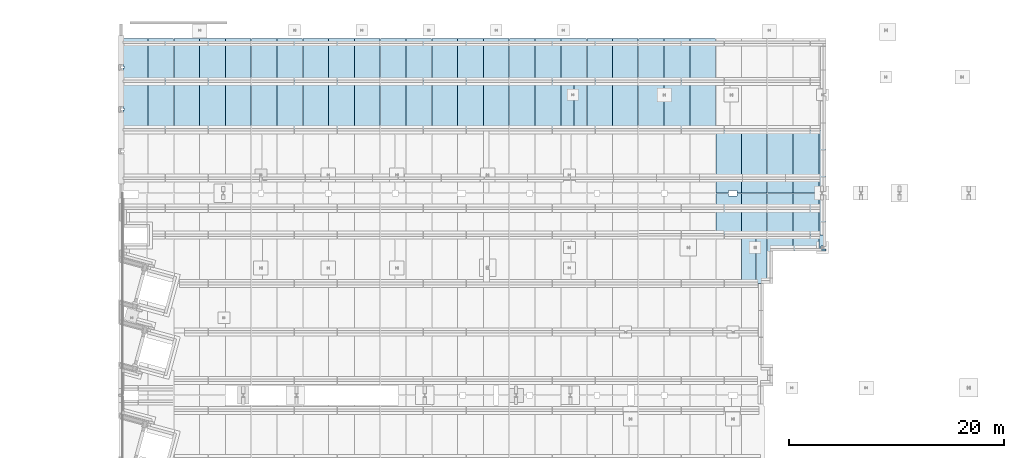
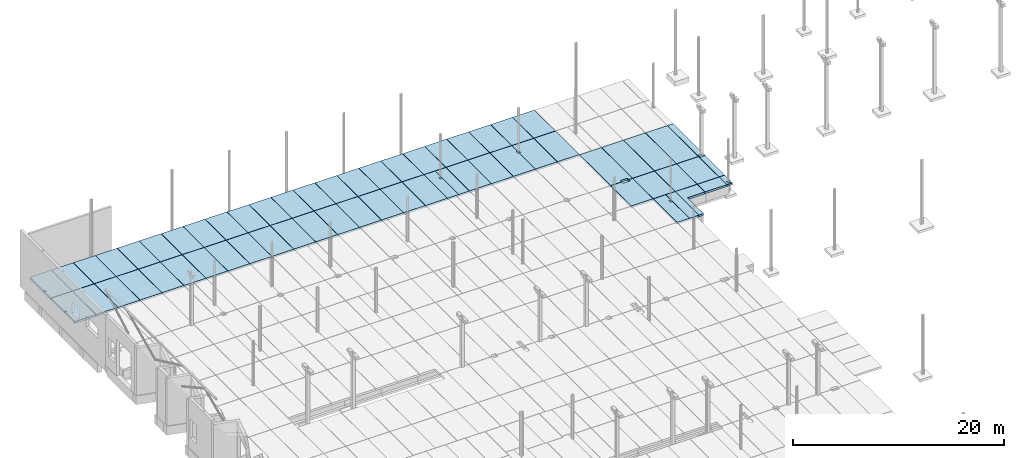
# One storey, part 52 of 59: 62 slabs.
"""IFC2X3 building model written with IfcOpenShell, lengths in metres."""

from ifc_helpers import new_model, entity, si_unit, converted_unit, derived_unit, frame, frame_2d, origin, origin_with_axes, place, context, subcontext, project, spatial, polyline, rectangle, outline, extrude, material, element, save


model = new_model("IFC2X3")

# Units and contexts
model_context = context("Model", 3, precision=1e-05, world=origin())
body_context = subcontext(model_context, "Body", "Model", "MODEL_VIEW")
ifc_project = project(units=[si_unit("LENGTHUNIT", "METRE"), si_unit("AREAUNIT", "SQUARE_METRE"), si_unit("VOLUMEUNIT", "CUBIC_METRE"), si_unit("MASSUNIT", "GRAM", prefix="KILO"), converted_unit("PLANEANGLEUNIT", "DEGREE", entity("IfcPlaneAngleMeasure", 0.0174532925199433), si_unit("PLANEANGLEUNIT", "RADIAN"), dimensions=[0, 0, 0, 0, 0, 0, 0]), derived_unit("THERMALTRANSMITTANCEUNIT", [(si_unit("POWERUNIT", "WATT"), 1), (si_unit("THERMODYNAMICTEMPERATUREUNIT", "KELVIN"), -1), (si_unit("LENGTHUNIT", "METRE"), -2)]), derived_unit("VOLUMETRICFLOWRATEUNIT", [(si_unit("LENGTHUNIT", "METRE"), 3), (converted_unit("TIMEUNIT", "hour", entity("IfcTimeMeasure", 3600.0), si_unit("TIMEUNIT", "SECOND"), dimensions=[0, 0, 1, 0, 0, 0, 0]), -1), (si_unit("LENGTHUNIT", "METRE"), -1)])], contexts=[model_context])

# Site, building, storey
site_placement = place(None, origin())
site = spatial("IfcSite", under=ifc_project, at=site_placement, Name="TWP_Speiseverteilzentrum SBW VZ II", CompositionType="ELEMENT")
building_placement = place(site_placement, origin())
building = spatial("IfcBuilding", under=site, at=building_placement, Name="Speiseverteilzentrum SBW VZ II", CompositionType="ELEMENT")
storey_placement = place(building_placement, frame((0.0, 0.0, 1.7307)))
storey = spatial("IfcBuildingStorey", under=building, at=storey_placement, Name="EG_Produktion_FFB", CompositionType="ELEMENT", Elevation=1.7307)

# Slabs
ifc_material_1 = material(Name="Stahlbetonfertigteil")
slab_1_placement = place(storey_placement, frame((74.3999999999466, 65.0249999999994, -0.47)))
element("IfcSlab", 1, at=slab_1_placement, inside=storey, material=ifc_material_1, Name="Stahlbetonfertigteilplatte", PredefinedType="BASESLAB", context=body_context, shape_type="SweptSolid", body=[
    extrude(outline(polyline([(0.195000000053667, 0.440000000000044), (0.625000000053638, 0.440000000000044), (0.625000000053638, 1.46500000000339), (0.0, 1.46500000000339), (0.0, 0.0), (0.625000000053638, 0.0), (0.625000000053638, 0.190000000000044), (0.195000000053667, 0.190000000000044), (0.195000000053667, 0.440000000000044)])), origin_with_axes(), (0.0, 0.0, 1.0), 0.22),
])
ifc_material_2 = material(Name="Stahlbetonfertigteil")
slab_2_placement = place(storey_placement, frame((71.9999999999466, 65.0249999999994, -0.47)))
element("IfcSlab", 2, at=slab_2_placement, inside=storey, material=ifc_material_2, Name="Stahlbetonfertigteilplatte", PredefinedType="BASESLAB", context=body_context, shape_type="SweptSolid", body=[
    extrude(rectangle(XDim=1.46500000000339, YDim=2.38, at=frame_2d((1.19, -0.732500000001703), x_axis=(0.0, -1.0))), frame((0.0, 1.46500000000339, 0.0), z_axis=(0.0, 0.0, 1.0), x_axis=(1.0, 0.0, 0.0)), (0.0, 0.0, 1.0), 0.22),
])
ifc_material_3 = material(Name="Stahlbetonfertigteil")
slab_3_placement = place(storey_placement, frame((69.5999999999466, 62.0100000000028, -0.47)))
element("IfcSlab", 3, at=slab_3_placement, inside=storey, material=ifc_material_3, Name="Stahlbetonfertigteilplatte", PredefinedType="BASESLAB", context=body_context, shape_type="SweptSolid", body=[
    extrude(outline(polyline([(2.38, 3.01499999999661), (2.38, 4.47999999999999), (0.0, 4.47999999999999), (0.0, 0.0), (0.500000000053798, 0.0), (0.500000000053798, 3.01499999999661), (2.38, 3.01499999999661)])), origin_with_axes(), (0.0, 0.0, 1.0), 0.22),
])
ifc_material_4 = material(Name="Stahlbetonfertigteil")
slab_4_placement = place(storey_placement, frame((50.3999999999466, 76.3101031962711, -0.47)))
element("IfcSlab", 4, at=slab_4_placement, inside=storey, material=ifc_material_4, Name="Stahlbetonfertigteilplatte", PredefinedType="BASESLAB", context=body_context, shape_type="SweptSolid", body=[
    extrude(outline(polyline([(0.970000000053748, 3.36289945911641), (1.21000000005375, 3.36289945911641), (1.21000000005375, 4.47999999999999), (0.0, 4.47999999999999), (0.0, 0.0), (1.21000000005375, 0.0), (1.21000000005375, 3.11289945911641), (0.970000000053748, 3.11289945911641), (0.970000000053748, 3.36289945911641)])), origin_with_axes(), (0.0, 0.0, 1.0), 0.22),
])
ifc_material_5 = material(Name="Stahlbetonfertigteil")
slab_5_placement = place(storey_placement, frame((51.6300000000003, 76.3101031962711, -0.47)))
element("IfcSlab", 5, at=slab_5_placement, inside=storey, material=ifc_material_5, Name="Stahlbetonfertigteilplatte", PredefinedType="BASESLAB", context=body_context, shape_type="SweptSolid", body=[
    extrude(rectangle(XDim=4.47999999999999, YDim=1.14999999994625, at=frame_2d((0.574999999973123, -2.23999999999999), x_axis=(0.0, -1.0))), frame((0.0, 4.47999999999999, 0.0), z_axis=(0.0, 0.0, 1.0), x_axis=(1.0, 0.0, 0.0)), (0.0, 0.0, 1.0), 0.22),
])
ifc_material_6 = material(Name="Stahlbetonfertigteil")
slab_6_placement = place(storey_placement, frame((57.5999999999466, 76.3101031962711, -0.47)))
element("IfcSlab", 6, at=slab_6_placement, inside=storey, material=ifc_material_6, Name="Stahlbetonfertigteilplatte", PredefinedType="BASESLAB", context=body_context, shape_type="SweptSolid", body=[
    extrude(outline(polyline([(2.25000000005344, 3.38289945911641), (2.38, 3.38289945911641), (2.38, 4.47999999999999), (0.0, 4.47999999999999), (0.0, 0.0), (2.38, 0.0), (2.38, 3.09289945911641), (2.25000000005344, 3.09289945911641), (2.25000000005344, 3.38289945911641)])), origin_with_axes(), (0.0, 0.0, 1.0), 0.22),
])
ifc_material_7 = material(Name="Stahlbetonfertigteil")
slab_7_placement = place(storey_placement, frame((59.9999999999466, 76.3101031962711, -0.47)))
element("IfcSlab", 7, at=slab_7_placement, inside=storey, material=ifc_material_7, Name="Stahlbetonfertigteilplatte", PredefinedType="BASESLAB", context=body_context, shape_type="SweptSolid", body=[
    extrude(outline(polyline([(0.0, 3.38289945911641), (0.150000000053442, 3.38289945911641), (0.150000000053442, 3.09289945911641), (0.0, 3.09289945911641), (0.0, 0.0), (2.38, 0.0), (2.38, 4.47999999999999), (0.0, 4.47999999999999), (0.0, 3.38289945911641)])), origin_with_axes(), (0.0, 0.0, 1.0), 0.22),
])
ifc_material_8 = material(Name="Stahlbetonfertigteil")
slab_8_placement = place(storey_placement, frame((11.9999999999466, 76.3101031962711, -0.47)))
element("IfcSlab", 8, at=slab_8_placement, inside=storey, material=ifc_material_8, Name="Stahlbetonfertigteilplatte", PredefinedType="BASESLAB", context=body_context, shape_type="SweptSolid", body=[
    extrude(rectangle(XDim=4.47999999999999, YDim=2.38, at=frame_2d((1.19, -2.23999999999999), x_axis=(0.0, -1.0))), frame((0.0, 4.47999999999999, 0.0), z_axis=(0.0, 0.0, 1.0), x_axis=(1.0, 0.0, 0.0)), (0.0, 0.0, 1.0), 0.22),
])
ifc_material_9 = material(Name="Stahlbetonfertigteil")
slab_9_placement = place(storey_placement, frame((14.3999999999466, 76.3101031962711, -0.47)))
element("IfcSlab", 9, at=slab_9_placement, inside=storey, material=ifc_material_9, Name="Stahlbetonfertigteilplatte", PredefinedType="BASESLAB", context=body_context, shape_type="SweptSolid", body=[
    extrude(rectangle(XDim=4.47999999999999, YDim=2.38, at=frame_2d((1.19, -2.23999999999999), x_axis=(0.0, -1.0))), frame((0.0, 4.47999999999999, 0.0), z_axis=(0.0, 0.0, 1.0), x_axis=(1.0, 0.0, 0.0)), (0.0, 0.0, 1.0), 0.22),
])
ifc_material_10 = material(Name="Stahlbetonfertigteil")
slab_10_placement = place(storey_placement, frame((16.7999999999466, 76.3101031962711, -0.47)))
element("IfcSlab", 10, at=slab_10_placement, inside=storey, material=ifc_material_10, Name="Stahlbetonfertigteilplatte", PredefinedType="BASESLAB", context=body_context, shape_type="SweptSolid", body=[
    extrude(rectangle(XDim=4.47999999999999, YDim=2.38, at=frame_2d((1.19, -2.23999999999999), x_axis=(0.0, -1.0))), frame((0.0, 4.47999999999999, 0.0), z_axis=(0.0, 0.0, 1.0), x_axis=(1.0, 0.0, 0.0)), (0.0, 0.0, 1.0), 0.22),
])
ifc_material_11 = material(Name="Stahlbetonfertigteil")
slab_11_placement = place(storey_placement, frame((19.1999999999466, 76.3101031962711, -0.47)))
element("IfcSlab", 11, at=slab_11_placement, inside=storey, material=ifc_material_11, Name="Stahlbetonfertigteilplatte", PredefinedType="BASESLAB", context=body_context, shape_type="SweptSolid", body=[
    extrude(rectangle(XDim=4.47999999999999, YDim=2.38, at=frame_2d((1.19, -2.23999999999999), x_axis=(0.0, -1.0))), frame((0.0, 4.47999999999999, 0.0), z_axis=(0.0, 0.0, 1.0), x_axis=(1.0, 0.0, 0.0)), (0.0, 0.0, 1.0), 0.22),
])
ifc_material_12 = material(Name="Stahlbetonfertigteil")
slab_12_placement = place(storey_placement, frame((21.5999999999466, 76.3101031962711, -0.47)))
element("IfcSlab", 12, at=slab_12_placement, inside=storey, material=ifc_material_12, Name="Stahlbetonfertigteilplatte", PredefinedType="BASESLAB", context=body_context, shape_type="SweptSolid", body=[
    extrude(rectangle(XDim=4.47999999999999, YDim=2.38, at=frame_2d((1.19, -2.23999999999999), x_axis=(0.0, -1.0))), frame((0.0, 4.47999999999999, 0.0), z_axis=(0.0, 0.0, 1.0), x_axis=(1.0, 0.0, 0.0)), (0.0, 0.0, 1.0), 0.22),
])
ifc_material_13 = material(Name="Stahlbetonfertigteil")
slab_13_placement = place(storey_placement, frame((23.9999999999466, 76.3101031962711, -0.47)))
element("IfcSlab", 13, at=slab_13_placement, inside=storey, material=ifc_material_13, Name="Stahlbetonfertigteilplatte", PredefinedType="BASESLAB", context=body_context, shape_type="SweptSolid", body=[
    extrude(rectangle(XDim=4.47999999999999, YDim=2.38, at=frame_2d((1.19, -2.23999999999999), x_axis=(0.0, -1.0))), frame((0.0, 4.47999999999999, 0.0), z_axis=(0.0, 0.0, 1.0), x_axis=(1.0, 0.0, 0.0)), (0.0, 0.0, 1.0), 0.22),
])
ifc_material_14 = material(Name="Stahlbetonfertigteil")
slab_14_placement = place(storey_placement, frame((26.3999999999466, 76.3101031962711, -0.47)))
element("IfcSlab", 14, at=slab_14_placement, inside=storey, material=ifc_material_14, Name="Stahlbetonfertigteilplatte", PredefinedType="BASESLAB", context=body_context, shape_type="SweptSolid", body=[
    extrude(rectangle(XDim=4.47999999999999, YDim=2.38, at=frame_2d((1.19, -2.23999999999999), x_axis=(0.0, -1.0))), frame((0.0, 4.47999999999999, 0.0), z_axis=(0.0, 0.0, 1.0), x_axis=(1.0, 0.0, 0.0)), (0.0, 0.0, 1.0), 0.22),
])
ifc_material_15 = material(Name="Stahlbetonfertigteil")
slab_15_placement = place(storey_placement, frame((28.7999999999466, 76.3101031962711, -0.47)))
element("IfcSlab", 15, at=slab_15_placement, inside=storey, material=ifc_material_15, Name="Stahlbetonfertigteilplatte", PredefinedType="BASESLAB", context=body_context, shape_type="SweptSolid", body=[
    extrude(rectangle(XDim=4.47999999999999, YDim=2.38, at=frame_2d((1.19, -2.23999999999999), x_axis=(0.0, -1.0))), frame((0.0, 4.47999999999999, 0.0), z_axis=(0.0, 0.0, 1.0), x_axis=(1.0, 0.0, 0.0)), (0.0, 0.0, 1.0), 0.22),
])
ifc_material_16 = material(Name="Stahlbetonfertigteil")
slab_16_placement = place(storey_placement, frame((31.1999999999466, 76.3101031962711, -0.47)))
element("IfcSlab", 16, at=slab_16_placement, inside=storey, material=ifc_material_16, Name="Stahlbetonfertigteilplatte", PredefinedType="BASESLAB", context=body_context, shape_type="SweptSolid", body=[
    extrude(rectangle(XDim=4.47999999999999, YDim=2.38, at=frame_2d((1.19, -2.23999999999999), x_axis=(0.0, -1.0))), frame((0.0, 4.47999999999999, 0.0), z_axis=(0.0, 0.0, 1.0), x_axis=(1.0, 0.0, 0.0)), (0.0, 0.0, 1.0), 0.22),
])
ifc_material_17 = material(Name="Stahlbetonfertigteil")
slab_17_placement = place(storey_placement, frame((33.5999999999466, 76.3101031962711, -0.47)))
element("IfcSlab", 17, at=slab_17_placement, inside=storey, material=ifc_material_17, Name="Stahlbetonfertigteilplatte", PredefinedType="BASESLAB", context=body_context, shape_type="SweptSolid", body=[
    extrude(rectangle(XDim=4.47999999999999, YDim=2.38, at=frame_2d((1.19, -2.23999999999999), x_axis=(0.0, -1.0))), frame((0.0, 4.47999999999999, 0.0), z_axis=(0.0, 0.0, 1.0), x_axis=(1.0, 0.0, 0.0)), (0.0, 0.0, 1.0), 0.22),
])
ifc_material_18 = material(Name="Stahlbetonfertigteil")
slab_18_placement = place(storey_placement, frame((35.9999999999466, 76.3101031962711, -0.47)))
element("IfcSlab", 18, at=slab_18_placement, inside=storey, material=ifc_material_18, Name="Stahlbetonfertigteilplatte", PredefinedType="BASESLAB", context=body_context, shape_type="SweptSolid", body=[
    extrude(rectangle(XDim=4.47999999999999, YDim=2.38, at=frame_2d((1.19, -2.23999999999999), x_axis=(0.0, -1.0))), frame((0.0, 4.47999999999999, 0.0), z_axis=(0.0, 0.0, 1.0), x_axis=(1.0, 0.0, 0.0)), (0.0, 0.0, 1.0), 0.22),
])
ifc_material_19 = material(Name="Stahlbetonfertigteil")
slab_19_placement = place(storey_placement, frame((38.3999999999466, 76.3101031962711, -0.47)))
element("IfcSlab", 19, at=slab_19_placement, inside=storey, material=ifc_material_19, Name="Stahlbetonfertigteilplatte", PredefinedType="BASESLAB", context=body_context, shape_type="SweptSolid", body=[
    extrude(rectangle(XDim=4.47999999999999, YDim=2.38, at=frame_2d((1.19, -2.23999999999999), x_axis=(0.0, -1.0))), frame((0.0, 4.47999999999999, 0.0), z_axis=(0.0, 0.0, 1.0), x_axis=(1.0, 0.0, 0.0)), (0.0, 0.0, 1.0), 0.22),
])
ifc_material_20 = material(Name="Stahlbetonfertigteil")
slab_20_placement = place(storey_placement, frame((40.7999999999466, 76.3101031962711, -0.47)))
element("IfcSlab", 20, at=slab_20_placement, inside=storey, material=ifc_material_20, Name="Stahlbetonfertigteilplatte", PredefinedType="BASESLAB", context=body_context, shape_type="SweptSolid", body=[
    extrude(rectangle(XDim=4.47999999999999, YDim=2.38, at=frame_2d((1.19, -2.23999999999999), x_axis=(0.0, -1.0))), frame((0.0, 4.47999999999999, 0.0), z_axis=(0.0, 0.0, 1.0), x_axis=(1.0, 0.0, 0.0)), (0.0, 0.0, 1.0), 0.22),
])
ifc_material_21 = material(Name="Stahlbetonfertigteil")
slab_21_placement = place(storey_placement, frame((43.1999999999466, 76.3101031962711, -0.47)))
element("IfcSlab", 21, at=slab_21_placement, inside=storey, material=ifc_material_21, Name="Stahlbetonfertigteilplatte", PredefinedType="BASESLAB", context=body_context, shape_type="SweptSolid", body=[
    extrude(rectangle(XDim=4.47999999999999, YDim=2.38, at=frame_2d((1.19, -2.23999999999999), x_axis=(0.0, -1.0))), frame((0.0, 4.47999999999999, 0.0), z_axis=(0.0, 0.0, 1.0), x_axis=(1.0, 0.0, 0.0)), (0.0, 0.0, 1.0), 0.22),
])
ifc_material_22 = material(Name="Stahlbetonfertigteil")
slab_22_placement = place(storey_placement, frame((45.5999999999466, 76.3101031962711, -0.47)))
element("IfcSlab", 22, at=slab_22_placement, inside=storey, material=ifc_material_22, Name="Stahlbetonfertigteilplatte", PredefinedType="BASESLAB", context=body_context, shape_type="SweptSolid", body=[
    extrude(rectangle(XDim=4.47999999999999, YDim=2.38, at=frame_2d((1.19, -2.23999999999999), x_axis=(0.0, -1.0))), frame((0.0, 4.47999999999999, 0.0), z_axis=(0.0, 0.0, 1.0), x_axis=(1.0, 0.0, 0.0)), (0.0, 0.0, 1.0), 0.22),
])
ifc_material_23 = material(Name="Stahlbetonfertigteil")
slab_23_placement = place(storey_placement, frame((47.9999999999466, 76.3101031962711, -0.47)))
element("IfcSlab", 23, at=slab_23_placement, inside=storey, material=ifc_material_23, Name="Stahlbetonfertigteilplatte", PredefinedType="BASESLAB", context=body_context, shape_type="SweptSolid", body=[
    extrude(rectangle(XDim=4.47999999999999, YDim=2.38, at=frame_2d((1.19, -2.23999999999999), x_axis=(0.0, -1.0))), frame((0.0, 4.47999999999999, 0.0), z_axis=(0.0, 0.0, 1.0), x_axis=(1.0, 0.0, 0.0)), (0.0, 0.0, 1.0), 0.22),
])
ifc_material_24 = material(Name="Stahlbetonfertigteil")
slab_24_placement = place(storey_placement, frame((52.7999999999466, 76.3101031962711, -0.47)))
element("IfcSlab", 24, at=slab_24_placement, inside=storey, material=ifc_material_24, Name="Stahlbetonfertigteilplatte", PredefinedType="BASESLAB", context=body_context, shape_type="SweptSolid", body=[
    extrude(rectangle(XDim=4.47999999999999, YDim=2.38, at=frame_2d((1.19, -2.23999999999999), x_axis=(0.0, -1.0))), frame((0.0, 4.47999999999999, 0.0), z_axis=(0.0, 0.0, 1.0), x_axis=(1.0, 0.0, 0.0)), (0.0, 0.0, 1.0), 0.22),
])
ifc_material_25 = material(Name="Stahlbetonfertigteil")
slab_25_placement = place(storey_placement, frame((55.1999999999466, 76.3101031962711, -0.47)))
element("IfcSlab", 25, at=slab_25_placement, inside=storey, material=ifc_material_25, Name="Stahlbetonfertigteilplatte", PredefinedType="BASESLAB", context=body_context, shape_type="SweptSolid", body=[
    extrude(rectangle(XDim=4.47999999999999, YDim=2.38, at=frame_2d((1.19, -2.23999999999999), x_axis=(0.0, -1.0))), frame((0.0, 4.47999999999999, 0.0), z_axis=(0.0, 0.0, 1.0), x_axis=(1.0, 0.0, 0.0)), (0.0, 0.0, 1.0), 0.22),
])
ifc_material_26 = material(Name="Stahlbetonfertigteil")
slab_26_placement = place(storey_placement, frame((62.3999999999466, 76.3101031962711, -0.47)))
element("IfcSlab", 26, at=slab_26_placement, inside=storey, material=ifc_material_26, Name="Stahlbetonfertigteilplatte", PredefinedType="BASESLAB", context=body_context, shape_type="SweptSolid", body=[
    extrude(rectangle(XDim=4.47999999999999, YDim=2.38, at=frame_2d((1.19, -2.23999999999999), x_axis=(0.0, -1.0))), frame((0.0, 4.47999999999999, 0.0), z_axis=(0.0, 0.0, 1.0), x_axis=(1.0, 0.0, 0.0)), (0.0, 0.0, 1.0), 0.22),
])
ifc_material_27 = material(Name="Stahlbetonfertigteil")
slab_27_placement = place(storey_placement, frame((68.5645010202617, 62.0100000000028, -0.47)))
element("IfcSlab", 27, at=slab_27_placement, inside=storey, material=ifc_material_27, Name="Stahlbetonfertigteilplatte", PredefinedType="BASESLAB", context=body_context, shape_type="SweptSolid", body=[
    extrude(rectangle(XDim=4.47999999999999, YDim=1.01549897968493, at=frame_2d((0.507749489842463, -2.23999999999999), x_axis=(0.0, -1.0))), frame((0.0, 4.47999999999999, 0.0), z_axis=(0.0, 0.0, 1.0), x_axis=(1.0, 0.0, 0.0)), (0.0, 0.0, 1.0), 0.22),
])
ifc_material_28 = material(Name="Stahlbetonfertigteil")
slab_28_placement = place(storey_placement, frame((67.1999999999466, 62.0100000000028, -0.47)))
element("IfcSlab", 28, at=slab_28_placement, inside=storey, material=ifc_material_28, Name="Stahlbetonfertigteilplatte", PredefinedType="BASESLAB", context=body_context, shape_type="SweptSolid", body=[
    extrude(outline(polyline([(1.12450102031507, 3.46499999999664), (1.34450102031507, 3.46499999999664), (1.34450102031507, 4.47999999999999), (0.0, 4.47999999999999), (0.0, 0.0), (1.34450102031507, 0.0), (1.34450102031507, 3.19499999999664), (1.12450102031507, 3.19499999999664), (1.12450102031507, 3.46499999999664)])), origin_with_axes(), (0.0, 0.0, 1.0), 0.22),
])
ifc_material_29 = material(Name="Stahlbetonfertigteil")
slab_29_placement = place(storey_placement, frame((9.65999999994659, 76.3101031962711, -0.47)))
element("IfcSlab", 29, at=slab_29_placement, inside=storey, material=ifc_material_29, Name="Stahlbetonfertigteilplatte", PredefinedType="BASESLAB", context=body_context, shape_type="SweptSolid", body=[
    extrude(outline(polyline([(0.0, 1.97239680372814), (0.170000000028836, 1.97239680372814), (0.170000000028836, 1.80739680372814), (0.0, 1.80739680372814), (0.0, 0.0), (2.32, 0.0), (2.32, 4.47999999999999), (0.0, 4.47999999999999), (0.0, 1.97239680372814)])), origin_with_axes(), (0.0, 0.0, 1.0), 0.22),
])
ifc_material_30 = material(Name="Stahlbetonfertigteil")
slab_30_placement = place(storey_placement, frame((14.3999999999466, 80.8101031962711, -0.47)))
element("IfcSlab", 30, at=slab_30_placement, inside=storey, material=ifc_material_30, Name="Stahlbetonfertigteilplatte", PredefinedType="BASESLAB", context=body_context, shape_type="SweptSolid", body=[
    extrude(rectangle(XDim=3.98989680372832, YDim=2.38, at=frame_2d((1.19, -1.99494840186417), x_axis=(0.0, -1.0))), frame((0.0, 3.98989680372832, 0.0), z_axis=(0.0, 0.0, 1.0), x_axis=(1.0, 0.0, 0.0)), (0.0, 0.0, 1.0), 0.22),
])
ifc_material_31 = material(Name="Stahlbetonfertigteil")
slab_31_placement = place(storey_placement, frame((11.9999999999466, 80.8101031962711, -0.47)))
element("IfcSlab", 31, at=slab_31_placement, inside=storey, material=ifc_material_31, Name="Stahlbetonfertigteilplatte", PredefinedType="BASESLAB", context=body_context, shape_type="SweptSolid", body=[
    extrude(rectangle(XDim=3.98989680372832, YDim=2.38, at=frame_2d((1.19, -1.99494840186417), x_axis=(0.0, -1.0))), frame((0.0, 3.98989680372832, 0.0), z_axis=(0.0, 0.0, 1.0), x_axis=(1.0, 0.0, 0.0)), (0.0, 0.0, 1.0), 0.22),
])
ifc_material_32 = material(Name="Stahlbetonfertigteil")
slab_32_placement = place(storey_placement, frame((47.9999999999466, 80.8101031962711, -0.47)))
element("IfcSlab", 32, at=slab_32_placement, inside=storey, material=ifc_material_32, Name="Stahlbetonfertigteilplatte", PredefinedType="BASESLAB", context=body_context, shape_type="SweptSolid", body=[
    extrude(rectangle(XDim=3.98989680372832, YDim=2.38, at=frame_2d((1.19, -1.99494840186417), x_axis=(0.0, -1.0))), frame((0.0, 3.98989680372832, 0.0), z_axis=(0.0, 0.0, 1.0), x_axis=(1.0, 0.0, 0.0)), (0.0, 0.0, 1.0), 0.22),
])
ifc_material_33 = material(Name="Stahlbetonfertigteil")
slab_33_placement = place(storey_placement, frame((50.3999999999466, 80.8101031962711, -0.47)))
element("IfcSlab", 33, at=slab_33_placement, inside=storey, material=ifc_material_33, Name="Stahlbetonfertigteilplatte", PredefinedType="BASESLAB", context=body_context, shape_type="SweptSolid", body=[
    extrude(rectangle(XDim=3.98989680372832, YDim=2.38, at=frame_2d((1.19, -1.99494840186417), x_axis=(0.0, -1.0))), frame((0.0, 3.98989680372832, 0.0), z_axis=(0.0, 0.0, 1.0), x_axis=(1.0, 0.0, 0.0)), (0.0, 0.0, 1.0), 0.22),
])
ifc_material_34 = material(Name="Stahlbetonfertigteil")
slab_34_placement = place(storey_placement, frame((52.7999999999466, 80.8101031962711, -0.47)))
element("IfcSlab", 34, at=slab_34_placement, inside=storey, material=ifc_material_34, Name="Stahlbetonfertigteilplatte", PredefinedType="BASESLAB", context=body_context, shape_type="SweptSolid", body=[
    extrude(rectangle(XDim=3.98989680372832, YDim=2.38, at=frame_2d((1.19, -1.99494840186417), x_axis=(0.0, -1.0))), frame((0.0, 3.98989680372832, 0.0), z_axis=(0.0, 0.0, 1.0), x_axis=(1.0, 0.0, 0.0)), (0.0, 0.0, 1.0), 0.22),
])
ifc_material_35 = material(Name="Stahlbetonfertigteil")
slab_35_placement = place(storey_placement, frame((43.1999999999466, 80.8101031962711, -0.47)))
element("IfcSlab", 35, at=slab_35_placement, inside=storey, material=ifc_material_35, Name="Stahlbetonfertigteilplatte", PredefinedType="BASESLAB", context=body_context, shape_type="SweptSolid", body=[
    extrude(rectangle(XDim=3.98989680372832, YDim=2.38, at=frame_2d((1.19, -1.99494840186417), x_axis=(0.0, -1.0))), frame((0.0, 3.98989680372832, 0.0), z_axis=(0.0, 0.0, 1.0), x_axis=(1.0, 0.0, 0.0)), (0.0, 0.0, 1.0), 0.22),
])
ifc_material_36 = material(Name="Stahlbetonfertigteil")
slab_36_placement = place(storey_placement, frame((45.5999999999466, 80.8101031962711, -0.47)))
element("IfcSlab", 36, at=slab_36_placement, inside=storey, material=ifc_material_36, Name="Stahlbetonfertigteilplatte", PredefinedType="BASESLAB", context=body_context, shape_type="SweptSolid", body=[
    extrude(rectangle(XDim=3.98989680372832, YDim=2.38, at=frame_2d((1.19, -1.99494840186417), x_axis=(0.0, -1.0))), frame((0.0, 3.98989680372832, 0.0), z_axis=(0.0, 0.0, 1.0), x_axis=(1.0, 0.0, 0.0)), (0.0, 0.0, 1.0), 0.22),
])
ifc_material_37 = material(Name="Stahlbetonfertigteil")
slab_37_placement = place(storey_placement, frame((40.7999999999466, 80.8101031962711, -0.47)))
element("IfcSlab", 37, at=slab_37_placement, inside=storey, material=ifc_material_37, Name="Stahlbetonfertigteilplatte", PredefinedType="BASESLAB", context=body_context, shape_type="SweptSolid", body=[
    extrude(rectangle(XDim=3.98989680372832, YDim=2.38, at=frame_2d((1.19, -1.99494840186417), x_axis=(0.0, -1.0))), frame((0.0, 3.98989680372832, 0.0), z_axis=(0.0, 0.0, 1.0), x_axis=(1.0, 0.0, 0.0)), (0.0, 0.0, 1.0), 0.22),
])
ifc_material_38 = material(Name="Stahlbetonfertigteil")
slab_38_placement = place(storey_placement, frame((33.5999999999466, 80.8101031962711, -0.47)))
element("IfcSlab", 38, at=slab_38_placement, inside=storey, material=ifc_material_38, Name="Stahlbetonfertigteilplatte", PredefinedType="BASESLAB", context=body_context, shape_type="SweptSolid", body=[
    extrude(rectangle(XDim=3.98989680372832, YDim=2.38, at=frame_2d((1.19, -1.99494840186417), x_axis=(0.0, -1.0))), frame((0.0, 3.98989680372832, 0.0), z_axis=(0.0, 0.0, 1.0), x_axis=(1.0, 0.0, 0.0)), (0.0, 0.0, 1.0), 0.22),
])
ifc_material_39 = material(Name="Stahlbetonfertigteil")
slab_39_placement = place(storey_placement, frame((35.9999999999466, 80.8101031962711, -0.47)))
element("IfcSlab", 39, at=slab_39_placement, inside=storey, material=ifc_material_39, Name="Stahlbetonfertigteilplatte", PredefinedType="BASESLAB", context=body_context, shape_type="SweptSolid", body=[
    extrude(rectangle(XDim=3.98989680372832, YDim=2.38, at=frame_2d((1.19, -1.99494840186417), x_axis=(0.0, -1.0))), frame((0.0, 3.98989680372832, 0.0), z_axis=(0.0, 0.0, 1.0), x_axis=(1.0, 0.0, 0.0)), (0.0, 0.0, 1.0), 0.22),
])
ifc_material_40 = material(Name="Stahlbetonfertigteil")
slab_40_placement = place(storey_placement, frame((28.7999999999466, 80.8101031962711, -0.47)))
element("IfcSlab", 40, at=slab_40_placement, inside=storey, material=ifc_material_40, Name="Stahlbetonfertigteilplatte", PredefinedType="BASESLAB", context=body_context, shape_type="SweptSolid", body=[
    extrude(rectangle(XDim=3.98989680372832, YDim=2.38, at=frame_2d((1.19, -1.99494840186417), x_axis=(0.0, -1.0))), frame((0.0, 3.98989680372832, 0.0), z_axis=(0.0, 0.0, 1.0), x_axis=(1.0, 0.0, 0.0)), (0.0, 0.0, 1.0), 0.22),
])
ifc_material_41 = material(Name="Stahlbetonfertigteil")
slab_41_placement = place(storey_placement, frame((31.1999999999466, 80.8101031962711, -0.47)))
element("IfcSlab", 41, at=slab_41_placement, inside=storey, material=ifc_material_41, Name="Stahlbetonfertigteilplatte", PredefinedType="BASESLAB", context=body_context, shape_type="SweptSolid", body=[
    extrude(rectangle(XDim=3.98989680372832, YDim=2.38, at=frame_2d((1.19, -1.99494840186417), x_axis=(0.0, -1.0))), frame((0.0, 3.98989680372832, 0.0), z_axis=(0.0, 0.0, 1.0), x_axis=(1.0, 0.0, 0.0)), (0.0, 0.0, 1.0), 0.22),
])
ifc_material_42 = material(Name="Stahlbetonfertigteil")
slab_42_placement = place(storey_placement, frame((23.9999999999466, 80.8101031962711, -0.47)))
element("IfcSlab", 42, at=slab_42_placement, inside=storey, material=ifc_material_42, Name="Stahlbetonfertigteilplatte", PredefinedType="BASESLAB", context=body_context, shape_type="SweptSolid", body=[
    extrude(rectangle(XDim=3.98989680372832, YDim=2.38, at=frame_2d((1.19, -1.99494840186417), x_axis=(0.0, -1.0))), frame((0.0, 3.98989680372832, 0.0), z_axis=(0.0, 0.0, 1.0), x_axis=(1.0, 0.0, 0.0)), (0.0, 0.0, 1.0), 0.22),
])
ifc_material_43 = material(Name="Stahlbetonfertigteil")
slab_43_placement = place(storey_placement, frame((26.3999999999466, 80.8101031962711, -0.47)))
element("IfcSlab", 43, at=slab_43_placement, inside=storey, material=ifc_material_43, Name="Stahlbetonfertigteilplatte", PredefinedType="BASESLAB", context=body_context, shape_type="SweptSolid", body=[
    extrude(rectangle(XDim=3.98989680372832, YDim=2.38, at=frame_2d((1.19, -1.99494840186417), x_axis=(0.0, -1.0))), frame((0.0, 3.98989680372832, 0.0), z_axis=(0.0, 0.0, 1.0), x_axis=(1.0, 0.0, 0.0)), (0.0, 0.0, 1.0), 0.22),
])
ifc_material_44 = material(Name="Stahlbetonfertigteil")
slab_44_placement = place(storey_placement, frame((19.1999999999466, 80.8101031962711, -0.47)))
element("IfcSlab", 44, at=slab_44_placement, inside=storey, material=ifc_material_44, Name="Stahlbetonfertigteilplatte", PredefinedType="BASESLAB", context=body_context, shape_type="SweptSolid", body=[
    extrude(rectangle(XDim=3.98989680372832, YDim=2.38, at=frame_2d((1.19, -1.99494840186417), x_axis=(0.0, -1.0))), frame((0.0, 3.98989680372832, 0.0), z_axis=(0.0, 0.0, 1.0), x_axis=(1.0, 0.0, 0.0)), (0.0, 0.0, 1.0), 0.22),
])
ifc_material_45 = material(Name="Stahlbetonfertigteil")
slab_45_placement = place(storey_placement, frame((21.5999999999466, 80.8101031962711, -0.47)))
element("IfcSlab", 45, at=slab_45_placement, inside=storey, material=ifc_material_45, Name="Stahlbetonfertigteilplatte", PredefinedType="BASESLAB", context=body_context, shape_type="SweptSolid", body=[
    extrude(rectangle(XDim=3.98989680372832, YDim=2.38, at=frame_2d((1.19, -1.99494840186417), x_axis=(0.0, -1.0))), frame((0.0, 3.98989680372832, 0.0), z_axis=(0.0, 0.0, 1.0), x_axis=(1.0, 0.0, 0.0)), (0.0, 0.0, 1.0), 0.22),
])
ifc_material_46 = material(Name="Stahlbetonfertigteil")
slab_46_placement = place(storey_placement, frame((67.1999999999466, 70.4104127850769, -0.47)))
element("IfcSlab", 46, at=slab_46_placement, inside=storey, material=ifc_material_46, Name="Stahlbetonfertigteilplatte", PredefinedType="BASESLAB", context=body_context, shape_type="SweptSolid", body=[
    extrude(rectangle(XDim=5.87958721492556, YDim=2.38, at=frame_2d((1.19, -2.93979360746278), x_axis=(0.0, -1.0))), frame((0.0, 5.87958721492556, 0.0), z_axis=(0.0, 0.0, 1.0), x_axis=(1.0, 0.0, 0.0)), (0.0, 0.0, 1.0), 0.22),
])
ifc_material_47 = material(Name="Stahlbetonfertigteil")
slab_47_placement = place(storey_placement, frame((67.1999999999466, 66.5102063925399, -0.47)))
element("IfcSlab", 47, at=slab_47_placement, inside=storey, material=ifc_material_47, Name="Stahlbetonfertigteilplatte", PredefinedType="BASESLAB", context=body_context, shape_type="SweptSolid", body=[
    extrude(rectangle(XDim=3.8799999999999, YDim=2.38, at=frame_2d((1.19, -1.93999999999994), x_axis=(0.0, -1.0))), frame((0.0, 3.8799999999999, 0.0), z_axis=(0.0, 0.0, 1.0), x_axis=(1.0, 0.0, 0.0)), (0.0, 0.0, 1.0), 0.22),
])
ifc_material_48 = material(Name="Stahlbetonfertigteil")
slab_48_placement = place(storey_placement, frame((69.5999999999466, 70.4104127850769, -0.47)))
element("IfcSlab", 48, at=slab_48_placement, inside=storey, material=ifc_material_48, Name="Stahlbetonfertigteilplatte", PredefinedType="BASESLAB", context=body_context, shape_type="SweptSolid", body=[
    extrude(rectangle(XDim=5.87958721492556, YDim=2.38, at=frame_2d((1.19, -2.93979360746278), x_axis=(0.0, -1.0))), frame((0.0, 5.87958721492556, 0.0), z_axis=(0.0, 0.0, 1.0), x_axis=(1.0, 0.0, 0.0)), (0.0, 0.0, 1.0), 0.22),
])
ifc_material_49 = material(Name="Stahlbetonfertigteil")
slab_49_placement = place(storey_placement, frame((71.9999999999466, 70.4104127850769, -0.47)))
element("IfcSlab", 49, at=slab_49_placement, inside=storey, material=ifc_material_49, Name="Stahlbetonfertigteilplatte", PredefinedType="BASESLAB", context=body_context, shape_type="SweptSolid", body=[
    extrude(rectangle(XDim=5.87958721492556, YDim=2.38, at=frame_2d((1.19, -2.93979360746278), x_axis=(0.0, -1.0))), frame((0.0, 5.87958721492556, 0.0), z_axis=(0.0, 0.0, 1.0), x_axis=(1.0, 0.0, 0.0)), (0.0, 0.0, 1.0), 0.22),
])
ifc_material_50 = material(Name="Stahlbetonfertigteil")
slab_50_placement = place(storey_placement, frame((71.9999999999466, 66.5102063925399, -0.47)))
element("IfcSlab", 50, at=slab_50_placement, inside=storey, material=ifc_material_50, Name="Stahlbetonfertigteilplatte", PredefinedType="BASESLAB", context=body_context, shape_type="SweptSolid", body=[
    extrude(rectangle(XDim=3.8799999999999, YDim=2.38, at=frame_2d((1.19, -1.93999999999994), x_axis=(0.0, -1.0))), frame((0.0, 3.8799999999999, 0.0), z_axis=(0.0, 0.0, 1.0), x_axis=(1.0, 0.0, 0.0)), (0.0, 0.0, 1.0), 0.22),
])
ifc_material_51 = material(Name="Stahlbetonfertigteil")
slab_51_placement = place(storey_placement, frame((69.5999999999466, 66.5102063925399, -0.47)))
element("IfcSlab", 51, at=slab_51_placement, inside=storey, material=ifc_material_51, Name="Stahlbetonfertigteilplatte", PredefinedType="BASESLAB", context=body_context, shape_type="SweptSolid", body=[
    extrude(rectangle(XDim=3.8799999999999, YDim=2.38, at=frame_2d((1.19, -1.93999999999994), x_axis=(0.0, -1.0))), frame((0.0, 3.8799999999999, 0.0), z_axis=(0.0, 0.0, 1.0), x_axis=(1.0, 0.0, 0.0)), (0.0, 0.0, 1.0), 0.22),
])
ifc_material_52 = material(Name="Stahlbetonfertigteil")
slab_52_placement = place(storey_placement, frame((59.9999999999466, 80.8101031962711, -0.47)))
element("IfcSlab", 52, at=slab_52_placement, inside=storey, material=ifc_material_52, Name="Stahlbetonfertigteilplatte", PredefinedType="BASESLAB", context=body_context, shape_type="SweptSolid", body=[
    extrude(rectangle(XDim=3.98989680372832, YDim=2.38, at=frame_2d((1.19, -1.99494840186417), x_axis=(0.0, -1.0))), frame((0.0, 3.98989680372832, 0.0), z_axis=(0.0, 0.0, 1.0), x_axis=(1.0, 0.0, 0.0)), (0.0, 0.0, 1.0), 0.22),
])
ifc_material_53 = material(Name="Stahlbetonfertigteil")
slab_53_placement = place(storey_placement, frame((62.3999999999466, 80.8101031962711, -0.47)))
element("IfcSlab", 53, at=slab_53_placement, inside=storey, material=ifc_material_53, Name="Stahlbetonfertigteilplatte", PredefinedType="BASESLAB", context=body_context, shape_type="SweptSolid", body=[
    extrude(rectangle(XDim=3.98989680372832, YDim=2.38, at=frame_2d((1.19, -1.99494840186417), x_axis=(0.0, -1.0))), frame((0.0, 3.98989680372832, 0.0), z_axis=(0.0, 0.0, 1.0), x_axis=(1.0, 0.0, 0.0)), (0.0, 0.0, 1.0), 0.22),
])
ifc_material_54 = material(Name="Stahlbetonfertigteil")
slab_54_placement = place(storey_placement, frame((55.1999999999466, 80.8101031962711, -0.47)))
element("IfcSlab", 54, at=slab_54_placement, inside=storey, material=ifc_material_54, Name="Stahlbetonfertigteilplatte", PredefinedType="BASESLAB", context=body_context, shape_type="SweptSolid", body=[
    extrude(rectangle(XDim=3.98989680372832, YDim=2.38, at=frame_2d((1.19, -1.99494840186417), x_axis=(0.0, -1.0))), frame((0.0, 3.98989680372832, 0.0), z_axis=(0.0, 0.0, 1.0), x_axis=(1.0, 0.0, 0.0)), (0.0, 0.0, 1.0), 0.22),
])
ifc_material_55 = material(Name="Stahlbetonfertigteil")
slab_55_placement = place(storey_placement, frame((57.5999999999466, 80.8101031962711, -0.47)))
element("IfcSlab", 55, at=slab_55_placement, inside=storey, material=ifc_material_55, Name="Stahlbetonfertigteilplatte", PredefinedType="BASESLAB", context=body_context, shape_type="SweptSolid", body=[
    extrude(rectangle(XDim=3.98989680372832, YDim=2.38, at=frame_2d((1.19, -1.99494840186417), x_axis=(0.0, -1.0))), frame((0.0, 3.98989680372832, 0.0), z_axis=(0.0, 0.0, 1.0), x_axis=(1.0, 0.0, 0.0)), (0.0, 0.0, 1.0), 0.22),
])
ifc_material_56 = material(Name="Stahlbetonfertigteil")
slab_56_placement = place(storey_placement, frame((16.7999999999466, 80.8101031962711, -0.47)))
element("IfcSlab", 56, at=slab_56_placement, inside=storey, material=ifc_material_56, Name="Stahlbetonfertigteilplatte", PredefinedType="BASESLAB", context=body_context, shape_type="SweptSolid", body=[
    extrude(rectangle(XDim=3.98989680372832, YDim=2.38, at=frame_2d((1.19, -1.99494840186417), x_axis=(0.0, -1.0))), frame((0.0, 3.98989680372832, 0.0), z_axis=(0.0, 0.0, 1.0), x_axis=(1.0, 0.0, 0.0)), (0.0, 0.0, 1.0), 0.22),
])
ifc_material_57 = material(Name="Stahlbetonfertigteil")
slab_57_placement = place(storey_placement, frame((64.7999999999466, 70.4104127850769, -0.47)))
element("IfcSlab", 57, at=slab_57_placement, inside=storey, material=ifc_material_57, Name="Stahlbetonfertigteilplatte", PredefinedType="BASESLAB", context=body_context, shape_type="SweptSolid", body=[
    extrude(outline(polyline([(2.38000000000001, 0.0), (2.38000000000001, 5.87958721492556), (0.0, 5.87958721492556), (0.0, 0.0), (1.20000000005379, 0.0), (1.20000000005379, 0.239587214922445), (1.98050000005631, 0.239587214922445), (1.98050000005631, 0.0), (2.38000000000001, 0.0)])), origin_with_axes(), (0.0, 0.0, 1.0), 0.22),
])
ifc_material_58 = material(Name="Stahlbetonfertigteil")
slab_58_placement = place(storey_placement, frame((64.7999999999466, 66.5102063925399, -0.47)))
element("IfcSlab", 58, at=slab_58_placement, inside=storey, material=ifc_material_58, Name="Stahlbetonfertigteilplatte", PredefinedType="BASESLAB", context=body_context, shape_type="SweptSolid", body=[
    extrude(outline(polyline([(1.20000000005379, 3.63979360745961), (1.20000000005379, 3.8799999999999), (0.0, 3.8799999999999), (0.0, 0.0), (2.38000000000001, 0.0), (2.38000000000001, 3.8799999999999), (1.98050000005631, 3.8799999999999), (1.98050000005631, 3.63979360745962), (1.20000000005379, 3.63979360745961)])), origin_with_axes(), (0.0, 0.0, 1.0), 0.22),
])
ifc_material_59 = material(Name="Stahlbetonfertigteil")
slab_59_placement = place(storey_placement, frame((74.3999999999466, 70.2353095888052, -0.47)))
element("IfcSlab", 59, at=slab_59_placement, inside=storey, material=ifc_material_59, Name="Stahlbetonfertigteilplatte", PredefinedType="BASESLAB", context=body_context, shape_type="SweptSolid", body=[
    extrude(outline(polyline([(0.0, 0.175103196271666), (0.0950000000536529, 0.175103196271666), (0.0950000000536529, 0.349793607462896), (0.455000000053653, 0.349793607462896), (0.455000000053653, 0.0), (0.625000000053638, 0.0), (0.625000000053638, 6.05469041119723), (0.0, 6.05469041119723), (0.0, 0.175103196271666)])), origin_with_axes(), (0.0, 0.0, 1.0), 0.22),
])
ifc_material_60 = material(Name="Stahlbetonfertigteil")
slab_60_placement = place(storey_placement, frame((74.3999999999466, 66.5102063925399, -0.47)))
element("IfcSlab", 60, at=slab_60_placement, inside=storey, material=ifc_material_60, Name="Stahlbetonfertigteilplatte", PredefinedType="BASESLAB", context=body_context, shape_type="SweptSolid", body=[
    extrude(outline(polyline([(0.0950000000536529, 3.70489680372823), (0.0950000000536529, 3.8799999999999), (0.0, 3.8799999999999), (0.0, 0.0), (0.625000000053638, 0.0), (0.625000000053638, 3.70489680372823), (0.0950000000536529, 3.70489680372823)])), origin_with_axes(), (0.0, 0.0, 1.0), 0.22),
])
ifc_material_61 = material(Name="Stahlbetonfertigteil")
slab_61_placement = place(storey_placement, frame((38.3999999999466, 80.8101031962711, -0.47)))
element("IfcSlab", 61, at=slab_61_placement, inside=storey, material=ifc_material_61, Name="Stahlbetonfertigteilplatte", PredefinedType="BASESLAB", context=body_context, shape_type="SweptSolid", body=[
    extrude(rectangle(XDim=3.98989680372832, YDim=2.38, at=frame_2d((1.19, -1.99494840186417), x_axis=(0.0, -1.0))), frame((0.0, 3.98989680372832, 0.0), z_axis=(0.0, 0.0, 1.0), x_axis=(1.0, 0.0, 0.0)), (0.0, 0.0, 1.0), 0.22),
])
ifc_material_62 = material(Name="Stahlbetonfertigteil")
slab_62_placement = place(storey_placement, frame((9.65999999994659, 80.8101031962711, -0.47)))
element("IfcSlab", 62, at=slab_62_placement, inside=storey, material=ifc_material_62, Name="Stahlbetonfertigteilplatte", PredefinedType="BASESLAB", context=body_context, shape_type="SweptSolid", body=[
    extrude(outline(polyline([(0.0, 1.37464945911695), (0.150000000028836, 1.37464945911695), (0.150000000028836, 1.20964945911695), (0.0, 1.20964945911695), (0.0, 0.0), (2.32, 0.0), (2.32, 3.98989680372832), (0.0, 3.98989680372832), (0.0, 1.37464945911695)])), origin_with_axes(), (0.0, 0.0, 1.0), 0.22),
])

save(model, "model.ifc")
